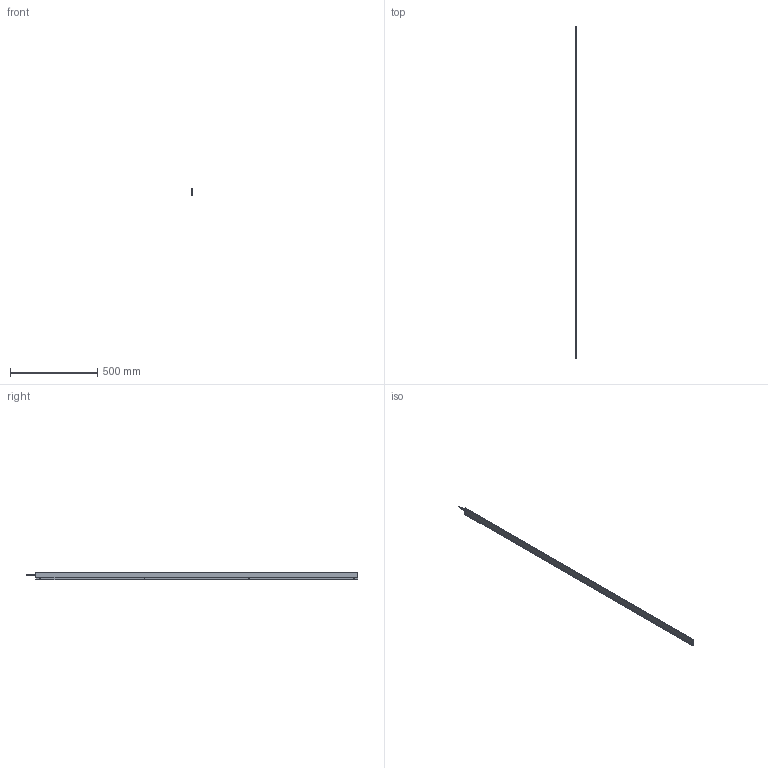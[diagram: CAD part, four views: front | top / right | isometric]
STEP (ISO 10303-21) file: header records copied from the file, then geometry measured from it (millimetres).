
FILE_DESCRIPTION (( 'STEP AP214' ), '1' );
FILE_NAME ('ILG-L-K2-1845mm.STEP', '2017-07-11T08:24:57', ( '' ), ( '' ), 'SwSTEP 2.0', 'SolidWorks 2016', '' );
FILE_SCHEMA (( 'AUTOMOTIVE_DESIGN' ));
Length unit declared in the file: millimetre
Products named in the file (1): ILG-L-K2-1845mm
Bounding box: 9 x 1899.5 x 40.71 mm (x, y, z)
Surface area: 364849.1 mm2 (no closed solid volume)
Topology: 0 solids, 13 shells, 681 faces, 1786 edges, 1135 vertices
Faces by surface type: cylinder 288, plane 255, cone 90, bspline 32, torus 16
Entity records: 30628 total; most frequent: CARTESIAN_POINT 6489, ORIENTED_EDGE 3525, DIRECTION 3406, EDGE_CURVE 1770, AXIS2_PLACEMENT_3D 1301, VERTEX_POINT 1135, LINE 804, VECTOR 804
